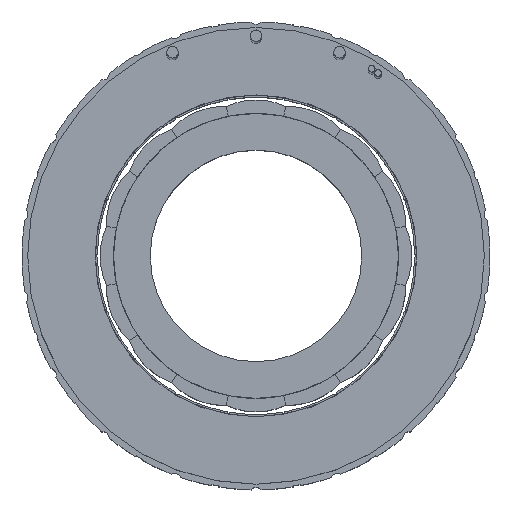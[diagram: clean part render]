
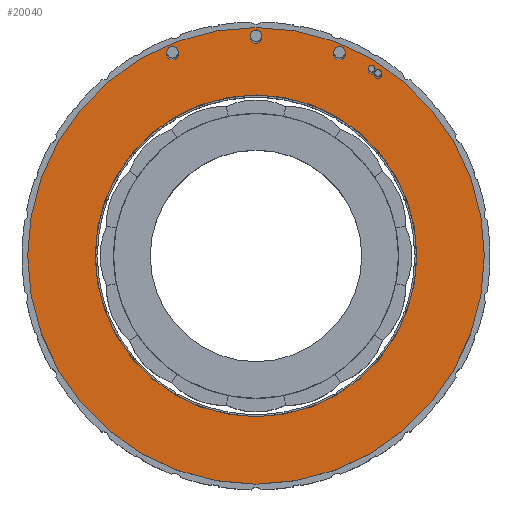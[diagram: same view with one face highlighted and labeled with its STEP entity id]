
A CAD part, top view. The second image highlights one B-rep face of the part: STEP entity #20040.
In plain terms, the highlighted planar face has unit normal (0, 0, 1).
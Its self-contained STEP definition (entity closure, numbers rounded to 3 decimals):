
#28 = CIRCLE ( 'NONE', #17066, 35.75 ) ;
#63 = EDGE_LOOP ( 'NONE', ( #3074, #16117 ) ) ;
#677 = CARTESIAN_POINT ( 'NONE',  ( -1.52, 20.735, 29.576 ) ) ;
#680 = AXIS2_PLACEMENT_3D ( 'NONE', #22881, #4573, #2082 ) ;
#1179 = EDGE_CURVE ( 'NONE', #21715, #24227, #24947, .T. ) ;
#1327 = CARTESIAN_POINT ( 'NONE',  ( -1.52, 20.735, 29.576 ) ) ;
#1372 = VERTEX_POINT ( 'NONE', #31196 ) ;
#1959 = EDGE_CURVE ( 'NONE', #10196, #1372, #23430, .T. ) ;
#2082 = DIRECTION ( 'NONE',  ( 1., 0., 0. ) ) ;
#2561 = AXIS2_PLACEMENT_3D ( 'NONE', #24969, #32111, #27448 ) ;
#2639 = AXIS2_PLACEMENT_3D ( 'NONE', #27550, #2758, #12577 ) ;
#2758 = DIRECTION ( 'NONE',  ( 0., 0., 1. ) ) ;
#2877 = CARTESIAN_POINT ( 'NONE',  ( -1.52, 20.735, 29.576 ) ) ;
#3074 = ORIENTED_EDGE ( 'NONE', *, *, #27097, .F. ) ;
#3193 = DIRECTION ( 'NONE',  ( 0., 0., 1. ) ) ;
#3321 = CARTESIAN_POINT ( 'NONE',  ( -52.27, 20.735, 29.576 ) ) ;
#3347 = FACE_BOUND ( 'NONE', #24387, .T. ) ;
#3617 = ORIENTED_EDGE ( 'NONE', *, *, #12531, .F. ) ;
#4453 = AXIS2_PLACEMENT_3D ( 'NONE', #10775, #18770, #18938 ) ;
#4509 = DIRECTION ( 'NONE',  ( 0., 0., 1. ) ) ;
#4539 = AXIS2_PLACEMENT_3D ( 'NONE', #24235, #32035, #21407 ) ;
#4573 = DIRECTION ( 'NONE',  ( 0., 0., 1. ) ) ;
#4989 = EDGE_CURVE ( 'NONE', #9140, #8628, #19297, .T. ) ;
#5315 = VERTEX_POINT ( 'NONE', #31847 ) ;
#6108 = CARTESIAN_POINT ( 'NONE',  ( 18.315, 65.543, 29.576 ) ) ;
#6146 = DIRECTION ( 'NONE',  ( 1., 0., 0. ) ) ;
#7234 = ORIENTED_EDGE ( 'NONE', *, *, #25028, .F. ) ;
#7274 = CIRCLE ( 'NONE', #31727, 1.275 ) ;
#7302 = CIRCLE ( 'NONE', #25920, 35.75 ) ;
#7331 = CARTESIAN_POINT ( 'NONE',  ( 24.181, 61.865, 29.576 ) ) ;
#7844 = DIRECTION ( 'NONE',  ( 1., 0., 0. ) ) ;
#7871 = DIRECTION ( 'NONE',  ( 1., 0., 0. ) ) ;
#8269 = EDGE_CURVE ( 'NONE', #22225, #22323, #28, .T. ) ;
#8502 = DIRECTION ( 'NONE',  ( 0., 0., 1. ) ) ;
#8507 = DIRECTION ( 'NONE',  ( 1., 0., 0. ) ) ;
#8628 = VERTEX_POINT ( 'NONE', #18380 ) ;
#9064 = ORIENTED_EDGE ( 'NONE', *, *, #15472, .F. ) ;
#9140 = VERTEX_POINT ( 'NONE', #21654 ) ;
#9535 = CIRCLE ( 'NONE', #28660, 0.75 ) ;
#9741 = CARTESIAN_POINT ( 'NONE',  ( -1.52, 69.235, 29.576 ) ) ;
#9784 = CIRCLE ( 'NONE', #4453, 1.275 ) ;
#9855 = DIRECTION ( 'NONE',  ( 1., 0., 0. ) ) ;
#9859 = EDGE_CURVE ( 'NONE', #13304, #20032, #30570, .T. ) ;
#10196 = VERTEX_POINT ( 'NONE', #20388 ) ;
#10375 = DIRECTION ( 'NONE',  ( 0., 0., 1. ) ) ;
#10677 = FACE_BOUND ( 'NONE', #63, .T. ) ;
#10775 = CARTESIAN_POINT ( 'NONE',  ( -20.08, 65.543, 29.576 ) ) ;
#10998 = FACE_BOUND ( 'NONE', #21605, .T. ) ;
#11033 = CARTESIAN_POINT ( 'NONE',  ( 25.601, 60.943, 29.576 ) ) ;
#11193 = CARTESIAN_POINT ( 'NONE',  ( -18.805, 65.543, 29.576 ) ) ;
#11202 = AXIS2_PLACEMENT_3D ( 'NONE', #9741, #17914, #27859 ) ;
#11301 = CARTESIAN_POINT ( 'NONE',  ( -37.27, 20.735, 29.576 ) ) ;
#11520 = ORIENTED_EDGE ( 'NONE', *, *, #29209, .F. ) ;
#11872 = CARTESIAN_POINT ( 'NONE',  ( 24.851, 60.943, 29.576 ) ) ;
#12531 = EDGE_CURVE ( 'NONE', #22323, #22225, #7302, .T. ) ;
#12577 = DIRECTION ( 'NONE',  ( 1., 0., 0. ) ) ;
#12914 = EDGE_CURVE ( 'NONE', #5315, #15476, #27517, .T. ) ;
#13000 = FACE_BOUND ( 'NONE', #27126, .T. ) ;
#13217 = CIRCLE ( 'NONE', #24386, 1.275 ) ;
#13304 = VERTEX_POINT ( 'NONE', #3321 ) ;
#13899 = AXIS2_PLACEMENT_3D ( 'NONE', #7331, #4509, #14851 ) ;
#14106 = CIRCLE ( 'NONE', #15175, 50.75 ) ;
#14305 = CARTESIAN_POINT ( 'NONE',  ( 34.23, 20.735, 29.576 ) ) ;
#14849 = ORIENTED_EDGE ( 'NONE', *, *, #9859, .T. ) ;
#14851 = DIRECTION ( 'NONE',  ( 1., 0., 0. ) ) ;
#15137 = EDGE_CURVE ( 'NONE', #8628, #9140, #18646, .T. ) ;
#15175 = AXIS2_PLACEMENT_3D ( 'NONE', #1327, #8502, #6146 ) ;
#15451 = ORIENTED_EDGE ( 'NONE', *, *, #1179, .F. ) ;
#15472 = EDGE_CURVE ( 'NONE', #1372, #10196, #9535, .T. ) ;
#15476 = VERTEX_POINT ( 'NONE', #11872 ) ;
#15876 = DIRECTION ( 'NONE',  ( 1., 0., 0. ) ) ;
#16117 = ORIENTED_EDGE ( 'NONE', *, *, #12914, .F. ) ;
#16476 = DIRECTION ( 'NONE',  ( 1., 0., 0. ) ) ;
#16859 = VERTEX_POINT ( 'NONE', #6108 ) ;
#17066 = AXIS2_PLACEMENT_3D ( 'NONE', #2877, #10375, #7871 ) ;
#17473 = ORIENTED_EDGE ( 'NONE', *, *, #1959, .F. ) ;
#17539 = ORIENTED_EDGE ( 'NONE', *, *, #15137, .F. ) ;
#17914 = DIRECTION ( 'NONE',  ( 0., 0., 1. ) ) ;
#18380 = CARTESIAN_POINT ( 'NONE',  ( -2.795, 69.235, 29.576 ) ) ;
#18646 = CIRCLE ( 'NONE', #11202, 1.275 ) ;
#18770 = DIRECTION ( 'NONE',  ( 0., 0., 1. ) ) ;
#18829 = CARTESIAN_POINT ( 'NONE',  ( 49.23, 20.735, 29.576 ) ) ;
#18880 = CIRCLE ( 'NONE', #22578, 0.75 ) ;
#18938 = DIRECTION ( 'NONE',  ( 1., 0., 0. ) ) ;
#19157 = VERTEX_POINT ( 'NONE', #21610 ) ;
#19297 = CIRCLE ( 'NONE', #680, 1.275 ) ;
#19444 = DIRECTION ( 'NONE',  ( 0., 0., 1. ) ) ;
#20032 = VERTEX_POINT ( 'NONE', #18829 ) ;
#20040 = ADVANCED_FACE ( 'NONE', ( #10677, #13000, #10998, #21149, #3347, #23154, #31117 ), #25642, .T. ) ;
#20236 = ORIENTED_EDGE ( 'NONE', *, *, #8269, .F. ) ;
#20388 = CARTESIAN_POINT ( 'NONE',  ( 24.931, 61.865, 29.576 ) ) ;
#20830 = DIRECTION ( 'NONE',  ( 0., 0., 1. ) ) ;
#21067 = EDGE_LOOP ( 'NONE', ( #14849, #22179 ) ) ;
#21082 = EDGE_CURVE ( 'NONE', #19157, #16859, #13217, .T. ) ;
#21149 = FACE_BOUND ( 'NONE', #31480, .T. ) ;
#21183 = DIRECTION ( 'NONE',  ( 0., 0., 1. ) ) ;
#21407 = DIRECTION ( 'NONE',  ( 1., 0., 0. ) ) ;
#21605 = EDGE_LOOP ( 'NONE', ( #15451, #7234 ) ) ;
#21610 = CARTESIAN_POINT ( 'NONE',  ( 15.765, 65.543, 29.576 ) ) ;
#21654 = CARTESIAN_POINT ( 'NONE',  ( -0.245, 69.235, 29.576 ) ) ;
#21715 = VERTEX_POINT ( 'NONE', #26190 ) ;
#22179 = ORIENTED_EDGE ( 'NONE', *, *, #25815, .T. ) ;
#22225 = VERTEX_POINT ( 'NONE', #11301 ) ;
#22323 = VERTEX_POINT ( 'NONE', #14305 ) ;
#22578 = AXIS2_PLACEMENT_3D ( 'NONE', #11033, #21183, #15876 ) ;
#22881 = CARTESIAN_POINT ( 'NONE',  ( -1.52, 69.235, 29.576 ) ) ;
#23154 = FACE_BOUND ( 'NONE', #30930, .T. ) ;
#23430 = CIRCLE ( 'NONE', #13899, 0.75 ) ;
#24227 = VERTEX_POINT ( 'NONE', #11193 ) ;
#24235 = CARTESIAN_POINT ( 'NONE',  ( -1.52, 20.735, 29.576 ) ) ;
#24373 = DIRECTION ( 'NONE',  ( 1., 0., 0. ) ) ;
#24386 = AXIS2_PLACEMENT_3D ( 'NONE', #24752, #19444, #16476 ) ;
#24387 = EDGE_LOOP ( 'NONE', ( #17539, #29609 ) ) ;
#24752 = CARTESIAN_POINT ( 'NONE',  ( 17.04, 65.543, 29.576 ) ) ;
#24947 = CIRCLE ( 'NONE', #2639, 1.275 ) ;
#24969 = CARTESIAN_POINT ( 'NONE',  ( 25.601, 60.943, 29.576 ) ) ;
#25007 = CARTESIAN_POINT ( 'NONE',  ( -1.52, 20.735, 29.576 ) ) ;
#25028 = EDGE_CURVE ( 'NONE', #24227, #21715, #9784, .T. ) ;
#25642 = PLANE ( 'NONE',  #25925 ) ;
#25815 = EDGE_CURVE ( 'NONE', #20032, #13304, #14106, .T. ) ;
#25920 = AXIS2_PLACEMENT_3D ( 'NONE', #25007, #29826, #9855 ) ;
#25925 = AXIS2_PLACEMENT_3D ( 'NONE', #677, #20830, #8507 ) ;
#26190 = CARTESIAN_POINT ( 'NONE',  ( -21.355, 65.543, 29.576 ) ) ;
#26707 = DIRECTION ( 'NONE',  ( 0., 0., 1. ) ) ;
#27097 = EDGE_CURVE ( 'NONE', #15476, #5315, #18880, .T. ) ;
#27126 = EDGE_LOOP ( 'NONE', ( #9064, #17473 ) ) ;
#27448 = DIRECTION ( 'NONE',  ( 1., 0., 0. ) ) ;
#27517 = CIRCLE ( 'NONE', #2561, 0.75 ) ;
#27550 = CARTESIAN_POINT ( 'NONE',  ( -20.08, 65.543, 29.576 ) ) ;
#27859 = DIRECTION ( 'NONE',  ( 1., 0., 0. ) ) ;
#28660 = AXIS2_PLACEMENT_3D ( 'NONE', #29680, #26707, #24373 ) ;
#29209 = EDGE_CURVE ( 'NONE', #16859, #19157, #7274, .T. ) ;
#29535 = ORIENTED_EDGE ( 'NONE', *, *, #21082, .F. ) ;
#29609 = ORIENTED_EDGE ( 'NONE', *, *, #4989, .F. ) ;
#29680 = CARTESIAN_POINT ( 'NONE',  ( 24.181, 61.865, 29.576 ) ) ;
#29826 = DIRECTION ( 'NONE',  ( 0., 0., 1. ) ) ;
#30458 = CARTESIAN_POINT ( 'NONE',  ( 17.04, 65.543, 29.576 ) ) ;
#30570 = CIRCLE ( 'NONE', #4539, 50.75 ) ;
#30930 = EDGE_LOOP ( 'NONE', ( #20236, #3617 ) ) ;
#31117 = FACE_OUTER_BOUND ( 'NONE', #21067, .T. ) ;
#31196 = CARTESIAN_POINT ( 'NONE',  ( 23.431, 61.865, 29.576 ) ) ;
#31480 = EDGE_LOOP ( 'NONE', ( #29535, #11520 ) ) ;
#31727 = AXIS2_PLACEMENT_3D ( 'NONE', #30458, #3193, #7844 ) ;
#31847 = CARTESIAN_POINT ( 'NONE',  ( 26.351, 60.943, 29.576 ) ) ;
#32035 = DIRECTION ( 'NONE',  ( 0., 0., 1. ) ) ;
#32111 = DIRECTION ( 'NONE',  ( 0., 0., 1. ) ) ;
